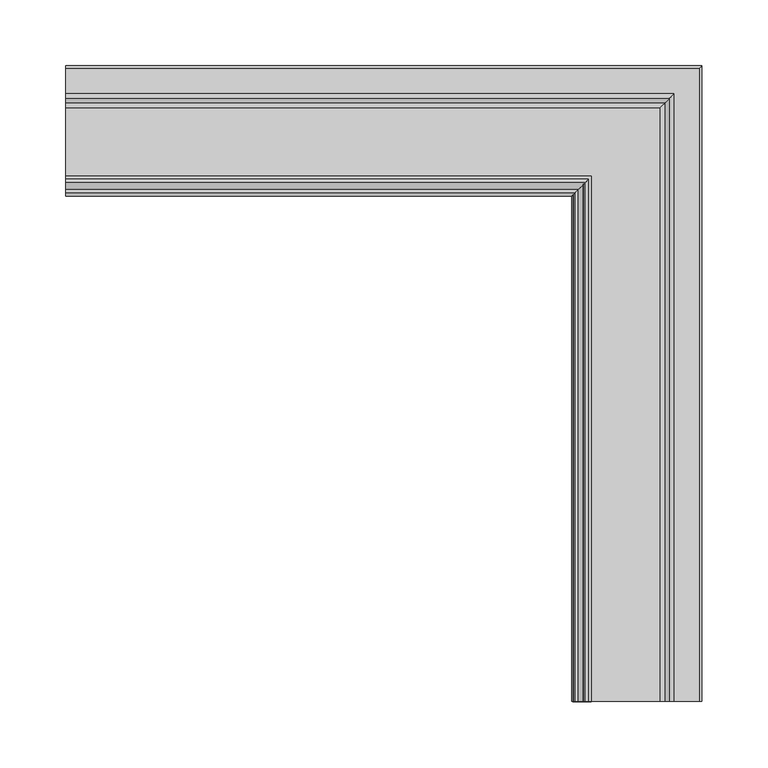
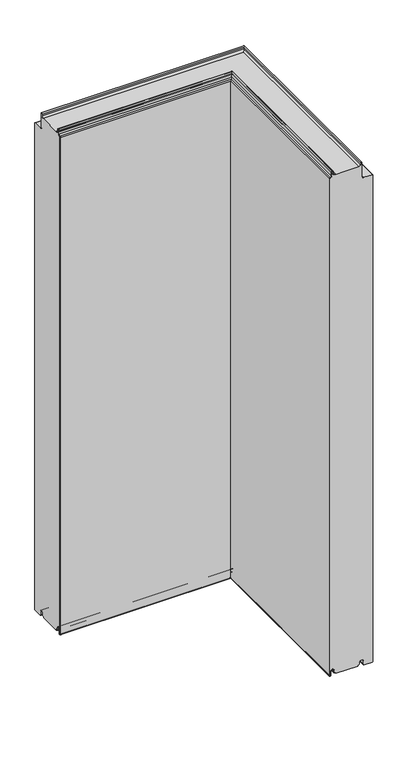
"""IFC4 building model written with IfcOpenShell, lengths in millimetres: plate geometry, Угловой модуль Fronttop : Угловой модуль Fronttop 100/1190."""

from ifc_helpers import new_model, si_unit, frame, origin, place, context, project, spatial, polyline, circle_curve, ellipse_curve, source, transform, mapped, element, save
from ifc_brep_helpers import plane_surface, cylinder_surface, revolved_surface, advanced_brep


def plate_c6ed5419(model_context):
    return source(origin(), model_context, "Body", "AdvancedBrep", [
        advanced_brep(
        [(-234.5, 15.0, 3.0), (-234.5, 13.0, 3.0), (-234.5, 12.0, 4.0), (-234.5, 12.0, 8.0), (-234.5, 3.0, 8.0), (-234.5, 3.0, -0.5), (-234.5, 1.0, -0.5), (-234.5, 1.0, 1185.0278643), (-234.5, 2.1111111, 1186.0216723), (-234.5, 6.0, 1189.5), (-234.5, 6.0, 1198.0), (-234.5, 9.0, 1198.0), (-234.5, 9.0, 1194.0), (-234.5, 13.0, 1190.0), (-234.5, 67.0, 1190.0), (-234.5, 71.0, 1194.0), (-234.5, 71.0, 1198.0), (-234.5, 74.0, 1198.0), (-234.5, 74.0, 1165.0), (-234.5, 78.0, 1161.0), (-234.5, 97.0, 1161.0), (-234.5, 99.0, 1159.0), (-234.5, 99.0, 0.0), (-234.5, 97.0, -2.0), (-234.5, 79.0, -2.0), (-234.5, 77.0, 0.0), (-234.5, 77.0, 8.0), (-234.5, 68.0, 8.0), (-234.5, 68.0, 4.0), (-234.5, 67.0, 3.0), (-234.5, 65.0, 3.0), (-234.5, 65.0, 0.0), (-234.5, 15.0, 0.0), (165.0, 15.0, 0.0), (165.0, 15.0, 3.0), (215.0, 65.0, 0.0), (215.0, -384.5, 0.0), (165.0, -384.5, 0.0), (215.0, 65.0, 3.0), (217.0, 67.0, 3.0), (217.0, -384.5, 3.0), (215.0, -384.5, 3.0), (218.0, 68.0, 4.0), (218.0, 68.0, 8.0), (227.0, 77.0, 8.0), (227.0, 77.0, 0.0), (229.0, 79.0, -2.0), (247.0, 97.0, -2.0), (247.0, -384.5, -2.0), (229.0, -384.5, -2.0), (249.0, 99.0, 0.0), (249.0, 99.0, 1159.0), (247.0, 97.0, 1161.0), (228.0, 78.0, 1161.0), (228.0, -384.5, 1161.0), (247.0, -384.5, 1161.0), (224.0, 74.0, 1165.0), (224.0, 74.0, 1198.0), (221.0, 71.0, 1198.0), (221.0, 71.0, 1194.0), (217.0, 67.0, 1190.0), (163.0, 13.0, 1190.0), (163.0, -384.5, 1190.0), (217.0, -384.5, 1190.0), (159.0, 9.0, 1194.0), (159.0, 9.0, 1198.0), (156.0, 6.0, 1198.0), (156.0, 6.0, 1189.5), (152.1111111, 2.1111111, 1186.021672), (151.0, 1.0, 1185.0278643), (151.0, 1.0, -0.5), (153.0, 3.0, -0.5), (153.0, 3.0, 8.0), (162.0, 12.0, 8.0), (162.0, 12.0, 4.0), (163.0, 13.0, 3.0), (165.0, -384.5, 3.0), (163.0, -384.5, 3.0), (218.0, -384.5, 4.0), (218.0, -384.5, 8.0), (227.0, -384.5, 8.0), (227.0, -384.5, 0.0), (249.0, -384.5, 0.0), (249.0, -384.5, 1159.0), (224.0, -384.5, 1165.0), (224.0, -384.5, 1198.0), (221.0, -384.5, 1198.0), (221.0, -384.5, 1194.0), (159.0, -384.5, 1194.0), (159.0, -384.5, 1198.0), (156.0, -384.5, 1198.0), (156.0, -384.5, 1189.5), (152.1111111, -384.5, 1186.021672), (151.0, -384.5, 1185.0278643), (151.0, -384.5, -0.5), (153.0, -384.5, -0.5), (153.0, -384.5, 8.0), (162.0, -384.5, 8.0), (162.0, -384.5, 4.0)],
        [
            (0, 1),
            (1, 2, circle_curve(frame((-234.5, 13.0, 4.0), z_axis=(-1.0, 0.0, 0.0), x_axis=(0.0, -1.0, 0.0)), 1.0)),
            (2, 3),
            (3, 4, circle_curve(frame((-234.5, 7.5, 8.0), z_axis=(1.0, 0.0, 0.0), x_axis=(0.0, -1.0, 0.0)), 4.5)),
            (4, 5),
            (5, 6, circle_curve(frame((-234.5, 2.0, -0.5), z_axis=(-1.0, 0.0, 0.0), x_axis=(0.0, -1.0, 0.0)), 1.0)),
            (6, 7),
            (7, 8, circle_curve(frame((-234.5, 2.0, 1185.0278643), z_axis=(-1.0, 0.0, 0.0), x_axis=(0.0, -1.0, 0.0)), 1.0)),
            (8, 9, circle_curve(frame((-234.5, 2.5, 1189.5), z_axis=(1.0, 0.0, 0.0), x_axis=(0.0, -1.0, 0.0)), 3.5)),
            (9, 10),
            (10, 11, circle_curve(frame((-234.5, 7.5, 1198.0), z_axis=(-1.0, 0.0, 0.0), x_axis=(0.0, -1.0, 0.0)), 1.5)),
            (11, 12),
            (12, 13, circle_curve(frame((-234.5, 13.0, 1194.0), z_axis=(1.0, 0.0, 0.0), x_axis=(0.0, -1.0, 0.0)), 4.0)),
            (13, 14),
            (14, 15, circle_curve(frame((-234.5, 67.0, 1194.0), z_axis=(1.0, 0.0, 0.0), x_axis=(0.0, -1.0, 0.0)), 4.0)),
            (15, 16),
            (16, 17, circle_curve(frame((-234.5, 72.5, 1198.0), z_axis=(-1.0, 0.0, 0.0), x_axis=(0.0, -1.0, 0.0)), 1.5)),
            (17, 18),
            (18, 19, circle_curve(frame((-234.5, 78.0, 1165.0), z_axis=(1.0, 0.0, 0.0), x_axis=(0.0, -1.0, 0.0)), 4.0)),
            (19, 20),
            (20, 21, circle_curve(frame((-234.5, 97.0, 1159.0), z_axis=(-1.0, 0.0, 0.0), x_axis=(0.0, -1.0, 0.0)), 2.0)),
            (21, 22),
            (22, 23, circle_curve(frame((-234.5, 97.0, 0.0), z_axis=(-1.0, 0.0, 0.0), x_axis=(0.0, -1.0, 0.0)), 2.0)),
            (23, 24),
            (24, 25, circle_curve(frame((-234.5, 79.0, 0.0), z_axis=(-1.0, 0.0, 0.0), x_axis=(0.0, -1.0, 0.0)), 2.0)),
            (25, 26),
            (26, 27, circle_curve(frame((-234.5, 72.5, 8.0), z_axis=(1.0, 0.0, 0.0), x_axis=(0.0, -1.0, 0.0)), 4.5)),
            (27, 28),
            (28, 29, circle_curve(frame((-234.5, 67.0, 4.0), z_axis=(-1.0, 0.0, 0.0), x_axis=(0.0, -1.0, 0.0)), 1.0)),
            (29, 30),
            (30, 31),
            (31, 32),
            (32, 0),
            (32, 33),
            (33, 34),
            (34, 0),
            (31, 35),
            (35, 36),
            (36, 37),
            (37, 33),
            (30, 38),
            (38, 35),
            (29, 39),
            (39, 40),
            (40, 41),
            (41, 38),
            (28, 42),
            (42, 39, ellipse_curve(frame((217.0, 67.0, 4.0), z_axis=(-0.7071067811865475, 0.7071067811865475, 0.0), x_axis=(-0.7071067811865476, -0.7071067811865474, 0.0)), 1.4142136, 1.0)),
            (27, 43),
            (43, 42),
            (26, 44),
            (44, 43, ellipse_curve(frame((222.5, 72.5, 8.0), z_axis=(0.7071067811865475, -0.7071067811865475, 0.0), x_axis=(0.7071067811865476, 0.7071067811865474, 0.0)), 6.363961, 4.5)),
            (25, 45),
            (45, 44),
            (24, 46),
            (46, 45, ellipse_curve(frame((229.0, 79.0, 0.0), z_axis=(-0.7071067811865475, 0.7071067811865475, 0.0), x_axis=(-0.7071067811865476, -0.7071067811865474, 0.0)), 2.8284271, 2.0)),
            (23, 47),
            (47, 48),
            (48, 49),
            (49, 46),
            (22, 50),
            (50, 47, ellipse_curve(frame((247.0, 97.0, 0.0), z_axis=(-0.7071067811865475, 0.7071067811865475, 0.0), x_axis=(-0.7071067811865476, -0.7071067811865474, 0.0)), 2.8284271, 2.0)),
            (21, 51),
            (51, 50),
            (20, 52),
            (52, 51, ellipse_curve(frame((247.0, 97.0, 1159.0), z_axis=(-0.7071067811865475, 0.7071067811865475, 0.0), x_axis=(-0.7071067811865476, -0.7071067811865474, 0.0)), 2.8284271, 2.0)),
            (19, 53),
            (53, 54),
            (54, 55),
            (55, 52),
            (18, 56),
            (56, 53, ellipse_curve(frame((228.0, 78.0, 1165.0), z_axis=(0.7071067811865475, -0.7071067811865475, 0.0), x_axis=(0.7071067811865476, 0.7071067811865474, 0.0)), 5.6568542, 4.0)),
            (17, 57),
            (57, 56),
            (16, 58),
            (58, 57, ellipse_curve(frame((222.5, 72.5, 1198.0), z_axis=(-0.7071067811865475, 0.7071067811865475, 0.0), x_axis=(-0.7071067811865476, -0.7071067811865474, 0.0)), 2.1213203, 1.5)),
            (15, 59),
            (59, 58),
            (14, 60),
            (60, 59, ellipse_curve(frame((217.0, 67.0, 1194.0), z_axis=(0.7071067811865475, -0.7071067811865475, 0.0), x_axis=(0.7071067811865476, 0.7071067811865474, 0.0)), 5.6568542, 4.0)),
            (13, 61),
            (61, 62),
            (62, 63),
            (63, 60),
            (12, 64),
            (64, 61, ellipse_curve(frame((163.0, 13.0, 1194.0), z_axis=(0.7071067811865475, -0.7071067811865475, 0.0), x_axis=(0.7071067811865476, 0.7071067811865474, 0.0)), 5.6568542, 4.0)),
            (11, 65),
            (65, 64),
            (10, 66),
            (66, 65, ellipse_curve(frame((157.5, 7.5, 1198.0), z_axis=(-0.7071067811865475, 0.7071067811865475, 0.0), x_axis=(-0.7071067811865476, -0.7071067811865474, 0.0)), 2.1213204, 1.5)),
            (9, 67),
            (67, 66),
            (8, 68),
            (68, 67, ellipse_curve(frame((152.5, 2.5, 1189.5), z_axis=(0.7071067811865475, -0.7071067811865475, 0.0), x_axis=(0.7071067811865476, 0.7071067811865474, 0.0)), 4.9497475, 3.5)),
            (7, 69),
            (69, 68, ellipse_curve(frame((152.0, 2.0, 1185.0278643), z_axis=(-0.7071067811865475, 0.7071067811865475, 0.0), x_axis=(-0.7071067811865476, -0.7071067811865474, 0.0)), 1.4142136, 1.0)),
            (6, 70),
            (70, 69),
            (5, 71),
            (71, 70, ellipse_curve(frame((152.0, 2.0, -0.5), z_axis=(-0.7071067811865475, 0.7071067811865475, 0.0), x_axis=(-0.7071067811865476, -0.7071067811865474, 0.0)), 1.4142136, 1.0)),
            (4, 72),
            (72, 71),
            (3, 73),
            (73, 72, ellipse_curve(frame((157.5, 7.5, 8.0), z_axis=(0.7071067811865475, -0.7071067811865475, 0.0), x_axis=(0.7071067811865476, 0.7071067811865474, 0.0)), 6.363961, 4.5)),
            (2, 74),
            (74, 73),
            (1, 75),
            (75, 74, ellipse_curve(frame((163.0, 13.0, 4.0), z_axis=(-0.7071067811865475, 0.7071067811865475, 0.0), x_axis=(-0.7071067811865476, -0.7071067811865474, 0.0)), 1.4142136, 1.0)),
            (34, 76),
            (76, 77),
            (77, 75),
            (76, 37),
            (36, 41),
            (40, 78, circle_curve(frame((217.0, -384.5, 4.0), z_axis=(0.0, -1.0, 0.0), x_axis=(-1.0, 0.0, 0.0)), 1.0)),
            (78, 79),
            (79, 80, circle_curve(frame((222.5, -384.5, 8.0), z_axis=(0.0, 1.0, 0.0), x_axis=(-1.0, 0.0, 0.0)), 4.5)),
            (80, 81),
            (81, 49, circle_curve(frame((229.0, -384.5, 0.0), z_axis=(0.0, -1.0, 0.0), x_axis=(-1.0, 0.0, 0.0)), 2.0)),
            (48, 82, circle_curve(frame((247.0, -384.5, 0.0), z_axis=(0.0, -1.0, 0.0), x_axis=(-1.0, 0.0, 0.0)), 2.0)),
            (82, 83),
            (83, 55, circle_curve(frame((247.0, -384.5, 1159.0), z_axis=(0.0, -1.0, 0.0), x_axis=(-1.0, 0.0, 0.0)), 2.0)),
            (54, 84, circle_curve(frame((228.0, -384.5, 1165.0), z_axis=(0.0, 1.0, 0.0), x_axis=(-1.0, 0.0, 0.0)), 4.0)),
            (84, 85),
            (85, 86, circle_curve(frame((222.5, -384.5, 1198.0), z_axis=(0.0, -1.0, 0.0), x_axis=(-1.0, 0.0, 0.0)), 1.5)),
            (86, 87),
            (87, 63, circle_curve(frame((217.0, -384.5, 1194.0), z_axis=(0.0, 1.0, 0.0), x_axis=(-1.0, 0.0, 0.0)), 4.0)),
            (62, 88, circle_curve(frame((163.0, -384.5, 1194.0), z_axis=(0.0, 1.0, 0.0), x_axis=(-1.0, 0.0, 0.0)), 4.0)),
            (88, 89),
            (89, 90, circle_curve(frame((157.5, -384.5, 1198.0), z_axis=(0.0, -1.0, 0.0), x_axis=(-1.0, 0.0, 0.0)), 1.5)),
            (90, 91),
            (91, 92, circle_curve(frame((152.5, -384.5, 1189.5), z_axis=(0.0, 1.0, 0.0), x_axis=(-1.0, 0.0, 0.0)), 3.5)),
            (92, 93, circle_curve(frame((152.0, -384.5, 1185.0278643), z_axis=(0.0, -1.0, 0.0), x_axis=(-1.0, 0.0, 0.0)), 1.0)),
            (93, 94),
            (94, 95, circle_curve(frame((152.0, -384.5, -0.5), z_axis=(0.0, -1.0, 0.0), x_axis=(-1.0, 0.0, 0.0)), 1.0)),
            (95, 96),
            (96, 97, circle_curve(frame((157.5, -384.5, 8.0), z_axis=(0.0, 1.0, 0.0), x_axis=(-1.0, 0.0, 0.0)), 4.5)),
            (97, 98),
            (98, 77, circle_curve(frame((163.0, -384.5, 4.0), z_axis=(0.0, -1.0, 0.0), x_axis=(-1.0, 0.0, 0.0)), 1.0)),
            (42, 78),
            (43, 79),
            (44, 80),
            (45, 81),
            (50, 82),
            (51, 83),
            (56, 84),
            (57, 85),
            (58, 86),
            (59, 87),
            (64, 88),
            (65, 89),
            (66, 90),
            (67, 91),
            (68, 92),
            (69, 93),
            (70, 94),
            (71, 95),
            (72, 96),
            (73, 97),
            (74, 98),
        ],
        [
            plane_surface(frame((-234.5, 0.0, 0.0), z_axis=(-1.0, 0.0, 0.0), x_axis=(0.0, 0.0, 1.0))),
            plane_surface(frame((-234.5, 15.0, 0.0), z_axis=(0.0, -1.0, 0.0), x_axis=(1.0, 0.0, 0.0))),
            plane_surface(frame((-234.5, 65.0, 0.0), z_axis=(0.0, 0.0, -1.0), x_axis=(1.0, 0.0, 0.0))),
            plane_surface(frame((-234.5, 65.0, 3.0), z_axis=(0.0, 1.0, 0.0), x_axis=(1.0, 0.0, 0.0))),
            plane_surface(frame((-234.5, 67.0, 3.0), z_axis=(0.0, 0.0, -1.0), x_axis=(1.0, 0.0, 0.0))),
            cylinder_surface(frame((-234.5, 67.0, 4.0), z_axis=(-1.0, 0.0, 0.0), x_axis=(0.0, -1.0, 0.0)), 1.0),
            plane_surface(frame((-234.5, 68.0, 8.0), z_axis=(0.0, 1.0, 0.0), x_axis=(1.0, 0.0, 0.0))),
            revolved_surface(polyline([(227.0, 68.0, 8.0), (-234.5, 68.0, 8.0)]), (-234.5, 72.5, 8.0), (1.0, 0.0, 0.0)),
            plane_surface(frame((-234.5, 77.0, 0.0), z_axis=(0.0, -1.0, 0.0), x_axis=(1.0, 0.0, 0.0))),
            cylinder_surface(frame((-234.5, 79.0, 0.0), z_axis=(-1.0, 0.0, 0.0), x_axis=(0.0, -1.0, 0.0)), 2.0),
            plane_surface(frame((-234.5, 97.0, -2.0), z_axis=(0.0, 0.0, -1.0), x_axis=(1.0, 0.0, 0.0))),
            cylinder_surface(frame((-234.5, 97.0, 0.0), z_axis=(-1.0, 0.0, 0.0), x_axis=(0.0, -1.0, 0.0)), 2.0),
            plane_surface(frame((-234.5, 99.0, 1159.0), z_axis=(0.0, 1.0, 0.0), x_axis=(1.0, 0.0, 0.0))),
            cylinder_surface(frame((-234.5, 97.0, 1159.0), z_axis=(-1.0, 0.0, 0.0), x_axis=(0.0, -1.0, 0.0)), 2.0),
            plane_surface(frame((-234.5, 78.0, 1161.0), z_axis=(0.0, 0.0, 1.0), x_axis=(1.0, 0.0, 0.0))),
            revolved_surface(polyline([(231.9999999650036, 74.0, 1165.0), (-234.5, 74.0, 1165.0)]), (-234.5, 78.0, 1165.0), (1.0, 0.0, 0.0)),
            plane_surface(frame((-234.5, 74.0, 1198.0), z_axis=(0.0, 1.0, 0.0), x_axis=(1.0, 0.0, 0.0))),
            cylinder_surface(frame((-234.5, 72.5, 1198.0), z_axis=(-1.0, 0.0, 0.0), x_axis=(0.0, -1.0, 0.0)), 1.5),
            plane_surface(frame((-234.5, 71.0, 1194.0), z_axis=(0.0, -1.0, 0.0), x_axis=(1.0, 0.0, 0.0))),
            revolved_surface(polyline([(221.0, 63.0, 1194.0), (-234.5, 63.0, 1194.0)]), (-234.5, 67.0, 1194.0), (1.0, 0.0, 0.0)),
            plane_surface(frame((-234.5, 13.0, 1190.0), z_axis=(0.0, 0.0, 1.0), x_axis=(1.0, 0.0, 0.0))),
            revolved_surface(polyline([(166.9999999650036, 9.0, 1194.0), (-234.5, 9.0, 1194.0)]), (-234.5, 13.0, 1194.0), (1.0, 0.0, 0.0)),
            plane_surface(frame((-234.5, 9.0, 1198.0), z_axis=(0.0, 1.0, 0.0), x_axis=(1.0, 0.0, 0.0))),
            cylinder_surface(frame((-234.5, 7.5, 1198.0), z_axis=(-1.0, 0.0, 0.0), x_axis=(0.0, -1.0, 0.0)), 1.5),
            plane_surface(frame((-234.5, 6.0, 1189.5), z_axis=(0.0, -1.0, 0.0), x_axis=(1.0, 0.0, 0.0))),
            revolved_surface(polyline([(156.00000002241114, -1.0, 1189.5), (-234.5, -1.0, 1189.5)]), (-234.5, 2.5, 1189.5), (1.0, 0.0, 0.0)),
            cylinder_surface(frame((-234.5, 2.0, 1185.0278643), z_axis=(-1.0, 0.0, 0.0), x_axis=(0.0, -1.0, 0.0)), 1.0),
            plane_surface(frame((-234.5, 1.0, -0.5), z_axis=(0.0, -1.0, 0.0), x_axis=(1.0, 0.0, 0.0))),
            cylinder_surface(frame((-234.5, 2.0, -0.5), z_axis=(-1.0, 0.0, 0.0), x_axis=(0.0, -1.0, 0.0)), 1.0),
            plane_surface(frame((-234.5, 3.0, 8.0), z_axis=(0.0, 1.0, 0.0), x_axis=(1.0, 0.0, 0.0))),
            revolved_surface(polyline([(162.0, 3.0, 8.0), (-234.5, 3.0, 8.0)]), (-234.5, 7.5, 8.0), (1.0, 0.0, 0.0)),
            plane_surface(frame((-234.5, 12.0, 4.0), z_axis=(0.0, -1.0, 0.0), x_axis=(1.0, 0.0, 0.0))),
            cylinder_surface(frame((-234.5, 13.0, 4.0), z_axis=(-1.0, 0.0, 0.0), x_axis=(0.0, -1.0, 0.0)), 1.0),
            plane_surface(frame((-234.5, 15.0, 3.0), z_axis=(0.0, 0.0, -1.0), x_axis=(1.0, 0.0, 0.0))),
            plane_surface(frame((150.0, -384.5, 0.0), z_axis=(0.0, -1.0, 0.0), x_axis=(0.0, 0.0, 1.0))),
            plane_surface(frame((165.0, 15.0, 0.0), z_axis=(-1.0, 0.0, 0.0), x_axis=(0.0, -1.0, 0.0))),
            plane_surface(frame((215.0, 65.0, 3.0), z_axis=(1.0, 0.0, 0.0), x_axis=(0.0, -1.0, 0.0))),
            cylinder_surface(frame((217.0, 0.0, 4.0), z_axis=(0.0, 1.0, 0.0), x_axis=(-1.0, 0.0, 0.0)), 1.0),
            plane_surface(frame((218.0, 68.0, 8.0), z_axis=(1.0, 0.0, 0.0), x_axis=(0.0, -1.0, 0.0))),
            revolved_surface(polyline([(218.0, -384.5, 8.0), (218.0, 77.0, 8.0)]), (222.5, 0.0, 8.0), (0.0, -1.0, 0.0)),
            plane_surface(frame((227.0, 77.0, 0.0), z_axis=(-1.0, 0.0, 0.0), x_axis=(0.0, -1.0, 0.0))),
            cylinder_surface(frame((229.0, 0.0, 0.0), z_axis=(0.0, 1.0, 0.0), x_axis=(-1.0, 0.0, 0.0)), 2.0),
            cylinder_surface(frame((247.0, 0.0, 0.0), z_axis=(0.0, 1.0, 0.0), x_axis=(-1.0, 0.0, 0.0)), 2.0),
            plane_surface(frame((249.0, 99.0, 1159.0), z_axis=(1.0, 0.0, 0.0), x_axis=(0.0, -1.0, 0.0))),
            cylinder_surface(frame((247.0, 0.0, 1159.0), z_axis=(0.0, 1.0, 0.0), x_axis=(-1.0, 0.0, 0.0)), 2.0),
            revolved_surface(polyline([(224.0, -384.5, 1165.0), (224.0, 81.9999999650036, 1165.0)]), (228.0, 0.0, 1165.0), (0.0, -1.0, 0.0)),
            plane_surface(frame((224.0, 74.0, 1198.0), z_axis=(1.0, 0.0, 0.0), x_axis=(0.0, -1.0, 0.0))),
            cylinder_surface(frame((222.5, 0.0, 1198.0), z_axis=(0.0, 1.0, 0.0), x_axis=(-1.0, 0.0, 0.0)), 1.5),
            plane_surface(frame((221.0, 71.0, 1194.0), z_axis=(-1.0, 0.0, 0.0), x_axis=(0.0, -1.0, 0.0))),
            revolved_surface(polyline([(213.0, -384.5, 1194.0), (213.0, 71.0, 1194.0)]), (217.0, 0.0, 1194.0), (0.0, -1.0, 0.0)),
            revolved_surface(polyline([(159.0, -384.5, 1194.0), (159.0, 16.999999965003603, 1194.0)]), (163.0, 0.0, 1194.0), (0.0, -1.0, 0.0)),
            plane_surface(frame((159.0, 9.0, 1198.0), z_axis=(1.0, 0.0, 0.0), x_axis=(0.0, -1.0, 0.0))),
            cylinder_surface(frame((157.5, 0.0, 1198.0), z_axis=(0.0, 1.0, 0.0), x_axis=(-1.0, 0.0, 0.0)), 1.5),
            plane_surface(frame((156.0, 6.0, 1189.5), z_axis=(-1.0, 0.0, 0.0), x_axis=(0.0, -1.0, 0.0))),
            revolved_surface(polyline([(149.0, -384.5, 1189.5), (149.0, 6.000000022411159, 1189.5)]), (152.5, 0.0, 1189.5), (0.0, -1.0, 0.0)),
            cylinder_surface(frame((152.0, 0.0, 1185.0278643), z_axis=(0.0, 1.0, 0.0), x_axis=(-1.0, 0.0, 0.0)), 1.0),
            plane_surface(frame((151.0, 1.0, -0.5), z_axis=(-1.0, 0.0, 0.0), x_axis=(0.0, -1.0, 0.0))),
            cylinder_surface(frame((152.0, 0.0, -0.5), z_axis=(0.0, 1.0, 0.0), x_axis=(-1.0, 0.0, 0.0)), 1.0),
            plane_surface(frame((153.0, 3.0, 8.0), z_axis=(1.0, 0.0, 0.0), x_axis=(0.0, -1.0, 0.0))),
            revolved_surface(polyline([(153.0, -384.5, 8.0), (153.0, 12.0, 8.0)]), (157.5, 0.0, 8.0), (0.0, -1.0, 0.0)),
            plane_surface(frame((162.0, 12.0, 4.0), z_axis=(-1.0, 0.0, 0.0), x_axis=(0.0, -1.0, 0.0))),
            cylinder_surface(frame((163.0, 0.0, 4.0), z_axis=(0.0, 1.0, 0.0), x_axis=(-1.0, 0.0, 0.0)), 1.0),
        ],
        [
            (0, [[1, 2, 3, 4, 5, 6, 7, 8, 9, 10, 11, 12, 13, 14, 15, 16, 17, 18, 19, 20, 21, 22, 23, 24, 25, 26, 27, 28, 29, 30, 31, 32, 33]]),
            (1, [[-33, 34, 35, 36]]),
            (2, [[-32, 37, 38, 39, 40, -34]]),
            (3, [[-31, 41, 42, -37]]),
            (4, [[-30, 43, 44, 45, 46, -41]]),
            (5, [[-29, 47, 48, -43]]),
            (6, [[-28, 49, 50, -47]]),
            (7, [[-27, 51, 52, -49]]),
            (8, [[-26, 53, 54, -51]]),
            (9, [[-25, 55, 56, -53]]),
            (10, [[-24, 57, 58, 59, 60, -55]]),
            (11, [[-23, 61, 62, -57]]),
            (12, [[-22, 63, 64, -61]]),
            (13, [[-21, 65, 66, -63]]),
            (14, [[-20, 67, 68, 69, 70, -65]]),
            (15, [[-19, 71, 72, -67]]),
            (16, [[-18, 73, 74, -71]]),
            (17, [[-17, 75, 76, -73]]),
            (18, [[-16, 77, 78, -75]]),
            (19, [[-15, 79, 80, -77]]),
            (20, [[-14, 81, 82, 83, 84, -79]]),
            (21, [[-13, 85, 86, -81]]),
            (22, [[-12, 87, 88, -85]]),
            (23, [[-11, 89, 90, -87]]),
            (24, [[-10, 91, 92, -89]]),
            (25, [[-9, 93, 94, -91]]),
            (26, [[-8, 95, 96, -93]]),
            (27, [[-7, 97, 98, -95]]),
            (28, [[-6, 99, 100, -97]]),
            (29, [[-5, 101, 102, -99]]),
            (30, [[-4, 103, 104, -101]]),
            (31, [[-3, 105, 106, -103]]),
            (32, [[-2, 107, 108, -105]]),
            (33, [[-1, -36, 109, 110, 111, -107]]),
            (34, [[112, -39, 113, -45, 114, 115, 116, 117, 118, -59, 119, 120, 121, -69, 122, 123, 124, 125, 126, -83, 127, 128, 129, 130, 131, 132, 133, 134, 135, 136, 137, 138, -110]]),
            (35, [[-35, -40, -112, -109]]),
            (36, [[-42, -46, -113, -38]]),
            (37, [[-48, 139, -114, -44]]),
            (38, [[-50, 140, -115, -139]]),
            (39, [[-52, 141, -116, -140]]),
            (40, [[-54, 142, -117, -141]]),
            (41, [[-56, -60, -118, -142]]),
            (42, [[-62, 143, -119, -58]]),
            (43, [[-64, 144, -120, -143]]),
            (44, [[-66, -70, -121, -144]]),
            (45, [[-72, 145, -122, -68]]),
            (46, [[-74, 146, -123, -145]]),
            (47, [[-76, 147, -124, -146]]),
            (48, [[-78, 148, -125, -147]]),
            (49, [[-80, -84, -126, -148]]),
            (50, [[-86, 149, -127, -82]]),
            (51, [[-88, 150, -128, -149]]),
            (52, [[-90, 151, -129, -150]]),
            (53, [[-92, 152, -130, -151]]),
            (54, [[-94, 153, -131, -152]]),
            (55, [[-96, 154, -132, -153]]),
            (56, [[-98, 155, -133, -154]]),
            (57, [[-100, 156, -134, -155]]),
            (58, [[-102, 157, -135, -156]]),
            (59, [[-104, 158, -136, -157]]),
            (60, [[-106, 159, -137, -158]]),
            (61, [[-108, -111, -138, -159]]),
        ],
    ),
        advanced_brep(
        [(-234.5, 13.0, 1191.0), (-234.5, 15.0, 1191.0), (-234.5, 15.0, 1190.0), (-234.5, 13.0, 1190.0), (-234.5, 9.0, 1194.0), (-234.5, 9.0, 1198.0), (-234.5, 6.0, 1198.0), (-234.5, 6.0, 1189.5), (-234.5, 2.1134897, 1186.0214069), (-234.5, 1.0, 1185.0), (-234.5, 1.0, -0.5), (-234.5, 3.0, -0.5), (-234.5, 3.0, 8.0), (-234.5, 12.0, 8.0), (-234.5, 12.0, 4.0), (-234.5, 13.0, 3.0), (-234.5, 15.0, 3.0), (-234.5, 15.0, 2.0), (-234.5, 13.0, 2.0), (-234.5, 11.0, 4.0), (-234.5, 11.0, 8.0), (-234.5, 4.0, 8.0), (-234.5, 4.0, -0.5), (-234.5, 0.0, -0.5), (-234.5, 0.0, 1185.0), (-234.5, 2.220863, 1186.9877675), (-234.5, 5.0, 1189.5), (-234.5, 5.0, 1198.0), (-234.5, 10.0, 1198.0), (-234.5, 10.0, 1194.0), (163.0, 13.0, 1191.0), (163.0, -384.5, 1191.0), (165.0, -384.5, 1191.0), (165.0, 15.0, 1191.0), (165.0, 15.0, 1190.0), (165.0, -384.5, 1190.0), (163.0, -384.5, 1190.0), (163.0, 13.0, 1190.0), (159.0, 9.0, 1194.0), (159.0, 9.0, 1198.0), (156.0, 6.0, 1198.0), (156.0, 6.0, 1189.5), (152.1134897, 2.1134897, 1186.0214069), (151.0, 1.0, 1185.0), (151.0, 1.0, -0.5), (153.0, 3.0, -0.5), (153.0, 3.0, 8.0), (162.0, 12.0, 8.0), (162.0, 12.0, 4.0), (163.0, 13.0, 3.0), (163.0, -384.5, 3.0), (165.0, -384.5, 3.0), (165.0, 15.0, 3.0), (165.0, 15.0, 2.0), (165.0, -384.5, 2.0), (163.0, -384.5, 2.0), (163.0, 13.0, 2.0), (161.0, 11.0, 4.0), (161.0, 11.0, 8.0), (154.0, 4.0, 8.0), (154.0, 4.0, -0.5), (150.0, 0.0, -0.5), (150.0, 0.0, 1185.0), (152.220863, 2.220863, 1186.9877675), (155.0, 5.0, 1189.5), (155.0, 5.0, 1198.0), (160.0, 10.0, 1198.0), (160.0, 10.0, 1194.0), (160.0, -384.5, 1194.0), (160.0, -384.5, 1198.0), (155.0, -384.5, 1198.0), (155.0, -384.5, 1189.5), (152.2239212, -384.5, 1187.0152907), (150.0, -384.5, 1185.0), (150.0, -384.5, -0.5), (154.0, -384.5, -0.5), (154.0, -384.5, 8.0), (161.0, -384.5, 8.0), (161.0, -384.5, 4.0), (162.0, -384.5, 4.0), (162.0, -384.5, 8.0), (153.0, -384.5, 8.0), (153.0, -384.5, -0.5), (151.0, -384.5, -0.5), (151.0, -384.5, 1185.0), (152.1104315, -384.5, 1185.9938837), (156.0, -384.5, 1189.5), (156.0, -384.5, 1198.0), (159.0, -384.5, 1198.0), (159.0, -384.5, 1194.0)],
        [
            (0, 1),
            (1, 2),
            (2, 3),
            (3, 4, circle_curve(frame((-234.5, 13.0, 1194.0), z_axis=(-1.0, 0.0, 0.0), x_axis=(0.0, -1.0, 0.0)), 4.0)),
            (4, 5),
            (5, 6, circle_curve(frame((-234.5, 7.5, 1198.0), z_axis=(1.0, 0.0, 0.0), x_axis=(0.0, -1.0, 0.0)), 1.5)),
            (6, 7),
            (7, 8, circle_curve(frame((-234.5, 2.5, 1189.5), z_axis=(-1.0, 0.0, 0.0), x_axis=(0.0, -1.0, 0.0)), 3.5)),
            (8, 9, circle_curve(frame((-234.5, 2.0, 1185.0), z_axis=(1.0, 0.0, 0.0), x_axis=(0.0, -1.0, 0.0)), 1.0)),
            (9, 10),
            (10, 11, circle_curve(frame((-234.5, 2.0, -0.5), z_axis=(1.0, 0.0, 0.0), x_axis=(0.0, -1.0, 0.0)), 1.0)),
            (11, 12),
            (12, 13, circle_curve(frame((-234.5, 7.5, 8.0), z_axis=(-1.0, 0.0, 0.0), x_axis=(0.0, -1.0, 0.0)), 4.5)),
            (13, 14),
            (14, 15, circle_curve(frame((-234.5, 13.0, 4.0), z_axis=(1.0, 0.0, 0.0), x_axis=(0.0, -1.0, 0.0)), 1.0)),
            (15, 16),
            (16, 17),
            (17, 18),
            (18, 19, circle_curve(frame((-234.5, 13.0, 4.0), z_axis=(-1.0, 0.0, 0.0), x_axis=(0.0, -1.0, 0.0)), 2.0)),
            (19, 20),
            (20, 21, circle_curve(frame((-234.5, 7.5, 8.0), z_axis=(1.0, 0.0, 0.0), x_axis=(0.0, -1.0, 0.0)), 3.5)),
            (21, 22),
            (22, 23, circle_curve(frame((-234.5, 2.0, -0.5), z_axis=(-1.0, 0.0, 0.0), x_axis=(0.0, -1.0, 0.0)), 2.0)),
            (23, 24),
            (24, 25, circle_curve(frame((-234.5, 2.0, 1185.0), z_axis=(-1.0, 0.0, 0.0), x_axis=(0.0, -1.0, 0.0)), 2.0)),
            (25, 26, circle_curve(frame((-234.5, 2.5, 1189.5), z_axis=(1.0, 0.0, 0.0), x_axis=(0.0, -1.0, 0.0)), 2.5)),
            (26, 27),
            (27, 28, circle_curve(frame((-234.5, 7.5, 1198.0), z_axis=(-1.0, 0.0, 0.0), x_axis=(0.0, -1.0, 0.0)), 2.5)),
            (28, 29),
            (29, 0, circle_curve(frame((-234.5, 13.0, 1194.0), z_axis=(1.0, 0.0, 0.0), x_axis=(0.0, -1.0, 0.0)), 3.0)),
            (0, 30),
            (30, 31),
            (31, 32),
            (32, 33),
            (33, 1),
            (33, 34),
            (34, 2),
            (34, 35),
            (35, 36),
            (36, 37),
            (37, 3),
            (37, 38, ellipse_curve(frame((163.0, 13.0, 1194.0), z_axis=(-0.7071067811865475, 0.7071067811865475, 0.0), x_axis=(-0.7071067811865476, -0.7071067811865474, 0.0)), 5.6568542, 4.0)),
            (38, 4),
            (38, 39),
            (39, 5),
            (39, 40, ellipse_curve(frame((157.5, 7.5, 1198.0), z_axis=(0.7071067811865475, -0.7071067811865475, 0.0), x_axis=(0.7071067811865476, 0.7071067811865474, 0.0)), 2.1213204, 1.5)),
            (40, 6),
            (40, 41),
            (41, 7),
            (41, 42, ellipse_curve(frame((152.5, 2.5, 1189.5), z_axis=(-0.7071067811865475, 0.7071067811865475, 0.0), x_axis=(-0.7071067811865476, -0.7071067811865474, 0.0)), 4.9497475, 3.5)),
            (42, 8),
            (42, 43, ellipse_curve(frame((152.0, 2.0, 1185.0), z_axis=(0.7071067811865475, -0.7071067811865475, 0.0), x_axis=(0.7071067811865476, 0.7071067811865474, 0.0)), 1.4142136, 1.0)),
            (43, 9),
            (43, 44),
            (44, 10),
            (44, 45, ellipse_curve(frame((152.0, 2.0, -0.5), z_axis=(0.7071067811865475, -0.7071067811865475, 0.0), x_axis=(0.7071067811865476, 0.7071067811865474, 0.0)), 1.4142136, 1.0)),
            (45, 11),
            (45, 46),
            (46, 12),
            (46, 47, ellipse_curve(frame((157.5, 7.5, 8.0), z_axis=(-0.7071067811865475, 0.7071067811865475, 0.0), x_axis=(-0.7071067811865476, -0.7071067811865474, 0.0)), 6.363961, 4.5)),
            (47, 13),
            (47, 48),
            (48, 14),
            (48, 49, ellipse_curve(frame((163.0, 13.0, 4.0), z_axis=(0.7071067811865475, -0.7071067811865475, 0.0), x_axis=(0.7071067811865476, 0.7071067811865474, 0.0)), 1.4142136, 1.0)),
            (49, 15),
            (49, 50),
            (50, 51),
            (51, 52),
            (52, 16),
            (52, 53),
            (53, 17),
            (53, 54),
            (54, 55),
            (55, 56),
            (56, 18),
            (56, 57, ellipse_curve(frame((163.0, 13.0, 4.0), z_axis=(-0.7071067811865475, 0.7071067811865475, 0.0), x_axis=(-0.7071067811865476, -0.7071067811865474, 0.0)), 2.8284271, 2.0)),
            (57, 19),
            (57, 58),
            (58, 20),
            (58, 59, ellipse_curve(frame((157.5, 7.5, 8.0), z_axis=(0.7071067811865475, -0.7071067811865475, 0.0), x_axis=(0.7071067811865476, 0.7071067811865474, 0.0)), 4.9497475, 3.5)),
            (59, 21),
            (59, 60),
            (60, 22),
            (60, 61, ellipse_curve(frame((152.0, 2.0, -0.5), z_axis=(-0.7071067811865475, 0.7071067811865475, 0.0), x_axis=(-0.7071067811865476, -0.7071067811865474, 0.0)), 2.8284271, 2.0)),
            (61, 23),
            (61, 62),
            (62, 24),
            (62, 63, ellipse_curve(frame((152.0, 2.0, 1185.0), z_axis=(-0.7071067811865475, 0.7071067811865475, 0.0), x_axis=(-0.7071067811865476, -0.7071067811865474, 0.0)), 2.8284271, 2.0)),
            (63, 25),
            (63, 64, ellipse_curve(frame((152.5, 2.5, 1189.5), z_axis=(0.7071067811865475, -0.7071067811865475, 0.0), x_axis=(0.7071067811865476, 0.7071067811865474, 0.0)), 3.5355339, 2.5)),
            (64, 26),
            (64, 65),
            (65, 27),
            (65, 66, ellipse_curve(frame((157.5, 7.5, 1198.0), z_axis=(-0.7071067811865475, 0.7071067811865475, 0.0), x_axis=(-0.7071067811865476, -0.7071067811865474, 0.0)), 3.5355339, 2.5)),
            (66, 28),
            (66, 67),
            (67, 29),
            (67, 30, ellipse_curve(frame((163.0, 13.0, 1194.0), z_axis=(0.7071067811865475, -0.7071067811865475, 0.0), x_axis=(0.7071067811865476, 0.7071067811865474, 0.0)), 4.2426407, 3.0)),
            (31, 68, circle_curve(frame((163.0, -384.5, 1194.0), z_axis=(0.0, 1.0, 0.0), x_axis=(-1.0, 0.0, 0.0)), 3.0)),
            (68, 69),
            (69, 70, circle_curve(frame((157.5, -384.5, 1198.0), z_axis=(0.0, -1.0, 0.0), x_axis=(-1.0, 0.0, 0.0)), 2.5)),
            (70, 71),
            (71, 72, circle_curve(frame((152.5, -384.5, 1189.5), z_axis=(0.0, 1.0, 0.0), x_axis=(-1.0, 0.0, 0.0)), 2.5)),
            (72, 73, circle_curve(frame((152.0, -384.5, 1185.0), z_axis=(0.0, -1.0, 0.0), x_axis=(-1.0, 0.0, 0.0)), 2.0)),
            (73, 74),
            (74, 75, circle_curve(frame((152.0, -384.5, -0.5), z_axis=(0.0, -1.0, 0.0), x_axis=(-1.0, 0.0, 0.0)), 2.0)),
            (75, 76),
            (76, 77, circle_curve(frame((157.5, -384.5, 8.0), z_axis=(0.0, 1.0, 0.0), x_axis=(-1.0, 0.0, 0.0)), 3.5)),
            (77, 78),
            (78, 55, circle_curve(frame((163.0, -384.5, 4.0), z_axis=(0.0, -1.0, 0.0), x_axis=(-1.0, 0.0, 0.0)), 2.0)),
            (54, 51),
            (50, 79, circle_curve(frame((163.0, -384.5, 4.0), z_axis=(0.0, 1.0, 0.0), x_axis=(-1.0, 0.0, 0.0)), 1.0)),
            (79, 80),
            (80, 81, circle_curve(frame((157.5, -384.5, 8.0), z_axis=(0.0, -1.0, 0.0), x_axis=(-1.0, 0.0, 0.0)), 4.5)),
            (81, 82),
            (82, 83, circle_curve(frame((152.0, -384.5, -0.5), z_axis=(0.0, 1.0, 0.0), x_axis=(-1.0, 0.0, 0.0)), 1.0)),
            (83, 84),
            (84, 85, circle_curve(frame((152.0, -384.5, 1185.0), z_axis=(0.0, 1.0, 0.0), x_axis=(-1.0, 0.0, 0.0)), 1.0)),
            (85, 86, circle_curve(frame((152.5, -384.5, 1189.5), z_axis=(0.0, -1.0, 0.0), x_axis=(-1.0, 0.0, 0.0)), 3.5)),
            (86, 87),
            (87, 88, circle_curve(frame((157.5, -384.5, 1198.0), z_axis=(0.0, 1.0, 0.0), x_axis=(-1.0, 0.0, 0.0)), 1.5)),
            (88, 89),
            (89, 36, circle_curve(frame((163.0, -384.5, 1194.0), z_axis=(0.0, -1.0, 0.0), x_axis=(-1.0, 0.0, 0.0)), 4.0)),
            (35, 32),
            (89, 38),
            (88, 39),
            (87, 40),
            (86, 41),
            (85, 42),
            (84, 43),
            (83, 44),
            (82, 45),
            (81, 46),
            (80, 47),
            (79, 48),
            (78, 57),
            (77, 58),
            (76, 59),
            (75, 60),
            (74, 61),
            (73, 62),
            (72, 63),
            (71, 64),
            (70, 65),
            (69, 66),
            (68, 67),
        ],
        [
            plane_surface(frame((-234.5, 0.0, 0.0), z_axis=(-1.0, 0.0, 0.0), x_axis=(0.0, 0.0, 1.0))),
            plane_surface(frame((-234.5, 13.0, 1191.0), z_axis=(0.0, 0.0, 1.0), x_axis=(1.0, 0.0, 0.0))),
            plane_surface(frame((-234.5, 15.0, 1191.0), z_axis=(0.0, 1.0, 0.0), x_axis=(1.0, 0.0, 0.0))),
            plane_surface(frame((-234.5, 15.0, 1190.0), z_axis=(0.0, 0.0, -1.0), x_axis=(1.0, 0.0, 0.0))),
            cylinder_surface(frame((-234.5, 13.0, 1194.0), z_axis=(-1.0, 0.0, 0.0), x_axis=(0.0, -1.0, 0.0)), 4.0),
            plane_surface(frame((-234.5, 9.0, 1194.0), z_axis=(0.0, -1.0, 0.0), x_axis=(1.0, 0.0, 0.0))),
            revolved_surface(polyline([(159.00000003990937, 6.0, 1198.0), (-234.5, 6.0, 1198.0)]), (-234.5, 7.5, 1198.0), (1.0, 0.0, 0.0)),
            plane_surface(frame((-234.5, 6.0, 1198.0), z_axis=(0.0, 1.0, 0.0), x_axis=(1.0, 0.0, 0.0))),
            cylinder_surface(frame((-234.5, 2.5, 1189.5), z_axis=(-1.0, 0.0, 0.0), x_axis=(0.0, -1.0, 0.0)), 3.5),
            revolved_surface(polyline([(153.00000002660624, 1.0, 1185.0), (-234.5, 1.0, 1185.0)]), (-234.5, 2.0, 1185.0), (1.0, 0.0, 0.0)),
            plane_surface(frame((-234.5, 1.0, 1185.0), z_axis=(0.0, 1.0, 0.0), x_axis=(1.0, 0.0, 0.0))),
            revolved_surface(polyline([(153.00000002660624, 1.0, -0.5), (-234.5, 1.0, -0.5)]), (-234.5, 2.0, -0.5), (1.0, 0.0, 0.0)),
            plane_surface(frame((-234.5, 3.0, -0.5), z_axis=(0.0, -1.0, 0.0), x_axis=(1.0, 0.0, 0.0))),
            cylinder_surface(frame((-234.5, 7.5, 8.0), z_axis=(-1.0, 0.0, 0.0), x_axis=(0.0, -1.0, 0.0)), 4.5),
            plane_surface(frame((-234.5, 12.0, 8.0), z_axis=(0.0, 1.0, 0.0), x_axis=(1.0, 0.0, 0.0))),
            revolved_surface(polyline([(164.00000002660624, 12.0, 4.0), (-234.5, 12.0, 4.0)]), (-234.5, 13.0, 4.0), (1.0, 0.0, 0.0)),
            plane_surface(frame((-234.5, 13.0, 3.0), z_axis=(0.0, 0.0, 1.0), x_axis=(1.0, 0.0, 0.0))),
            plane_surface(frame((-234.5, 15.0, 3.0), z_axis=(0.0, 1.0, 0.0), x_axis=(1.0, 0.0, 0.0))),
            plane_surface(frame((-234.5, 15.0, 2.0), z_axis=(0.0, 0.0, -1.0), x_axis=(1.0, 0.0, 0.0))),
            cylinder_surface(frame((-234.5, 13.0, 4.0), z_axis=(-1.0, 0.0, 0.0), x_axis=(0.0, -1.0, 0.0)), 2.0),
            plane_surface(frame((-234.5, 11.0, 4.0), z_axis=(0.0, -1.0, 0.0), x_axis=(1.0, 0.0, 0.0))),
            revolved_surface(polyline([(161.00000002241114, 4.0, 8.0), (-234.5, 4.0, 8.0)]), (-234.5, 7.5, 8.0), (1.0, 0.0, 0.0)),
            plane_surface(frame((-234.5, 4.0, 8.0), z_axis=(0.0, 1.0, 0.0), x_axis=(1.0, 0.0, 0.0))),
            cylinder_surface(frame((-234.5, 2.0, -0.5), z_axis=(-1.0, 0.0, 0.0), x_axis=(0.0, -1.0, 0.0)), 2.0),
            plane_surface(frame((-234.5, 0.0, -0.5), z_axis=(0.0, -1.0, 0.0), x_axis=(1.0, 0.0, 0.0))),
            cylinder_surface(frame((-234.5, 2.0, 1185.0), z_axis=(-1.0, 0.0, 0.0), x_axis=(0.0, -1.0, 0.0)), 2.0),
            revolved_surface(polyline([(155.0, 0.0, 1189.5), (-234.5, 0.0, 1189.5)]), (-234.5, 2.5, 1189.5), (1.0, 0.0, 0.0)),
            plane_surface(frame((-234.5, 5.0, 1189.5), z_axis=(0.0, -1.0, 0.0), x_axis=(1.0, 0.0, 0.0))),
            cylinder_surface(frame((-234.5, 7.5, 1198.0), z_axis=(-1.0, 0.0, 0.0), x_axis=(0.0, -1.0, 0.0)), 2.5),
            plane_surface(frame((-234.5, 10.0, 1198.0), z_axis=(0.0, 1.0, 0.0), x_axis=(1.0, 0.0, 0.0))),
            revolved_surface(polyline([(166.00000000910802, 10.0, 1194.0), (-234.5, 10.0, 1194.0)]), (-234.5, 13.0, 1194.0), (1.0, 0.0, 0.0)),
            plane_surface(frame((150.0, -384.5, 0.0), z_axis=(0.0, -1.0, 0.0), x_axis=(0.0, 0.0, 1.0))),
            plane_surface(frame((165.0, 15.0, 1191.0), z_axis=(1.0, 0.0, 0.0), x_axis=(0.0, -1.0, 0.0))),
            cylinder_surface(frame((163.0, 0.0, 1194.0), z_axis=(0.0, 1.0, 0.0), x_axis=(-1.0, 0.0, 0.0)), 4.0),
            plane_surface(frame((159.0, 9.0, 1194.0), z_axis=(-1.0, 0.0, 0.0), x_axis=(0.0, -1.0, 0.0))),
            revolved_surface(polyline([(156.0, -384.5, 1198.0), (156.0, 9.00000003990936, 1198.0)]), (157.5, 0.0, 1198.0), (0.0, -1.0, 0.0)),
            plane_surface(frame((156.0, 6.0, 1198.0), z_axis=(1.0, 0.0, 0.0), x_axis=(0.0, -1.0, 0.0))),
            cylinder_surface(frame((152.5, 0.0, 1189.5), z_axis=(0.0, 1.0, 0.0), x_axis=(-1.0, 0.0, 0.0)), 3.5),
            revolved_surface(polyline([(151.0, -384.5, 1185.0), (151.0, 3.0000000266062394, 1185.0)]), (152.0, 0.0, 1185.0), (0.0, -1.0, 0.0)),
            plane_surface(frame((151.0, 1.0, 1185.0), z_axis=(1.0, 0.0, 0.0), x_axis=(0.0, -1.0, 0.0))),
            revolved_surface(polyline([(151.0, -384.5, -0.5), (151.0, 3.0000000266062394, -0.5)]), (152.0, 0.0, -0.5), (0.0, -1.0, 0.0)),
            plane_surface(frame((153.0, 3.0, -0.5), z_axis=(-1.0, 0.0, 0.0), x_axis=(0.0, -1.0, 0.0))),
            cylinder_surface(frame((157.5, 0.0, 8.0), z_axis=(0.0, 1.0, 0.0), x_axis=(-1.0, 0.0, 0.0)), 4.5),
            plane_surface(frame((162.0, 12.0, 8.0), z_axis=(1.0, 0.0, 0.0), x_axis=(0.0, -1.0, 0.0))),
            revolved_surface(polyline([(162.0, -384.5, 4.0), (162.0, 14.000000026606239, 4.0)]), (163.0, 0.0, 4.0), (0.0, -1.0, 0.0)),
            plane_surface(frame((165.0, 15.0, 3.0), z_axis=(1.0, 0.0, 0.0), x_axis=(0.0, -1.0, 0.0))),
            cylinder_surface(frame((163.0, 0.0, 4.0), z_axis=(0.0, 1.0, 0.0), x_axis=(-1.0, 0.0, 0.0)), 2.0),
            plane_surface(frame((161.0, 11.0, 4.0), z_axis=(-1.0, 0.0, 0.0), x_axis=(0.0, -1.0, 0.0))),
            revolved_surface(polyline([(154.0, -384.5, 8.0), (154.0, 11.00000002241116, 8.0)]), (157.5, 0.0, 8.0), (0.0, -1.0, 0.0)),
            plane_surface(frame((154.0, 4.0, 8.0), z_axis=(1.0, 0.0, 0.0), x_axis=(0.0, -1.0, 0.0))),
            cylinder_surface(frame((152.0, 0.0, -0.5), z_axis=(0.0, 1.0, 0.0), x_axis=(-1.0, 0.0, 0.0)), 2.0),
            plane_surface(frame((150.0, 0.0, -0.5), z_axis=(-1.0, 0.0, 0.0), x_axis=(0.0, -1.0, 0.0))),
            cylinder_surface(frame((152.0, 0.0, 1185.0), z_axis=(0.0, 1.0, 0.0), x_axis=(-1.0, 0.0, 0.0)), 2.0),
            revolved_surface(polyline([(150.0, -384.5, 1189.5), (150.0, 5.0, 1189.5)]), (152.5, 0.0, 1189.5), (0.0, -1.0, 0.0)),
            plane_surface(frame((155.0, 5.0, 1189.5), z_axis=(-1.0, 0.0, 0.0), x_axis=(0.0, -1.0, 0.0))),
            cylinder_surface(frame((157.5, 0.0, 1198.0), z_axis=(0.0, 1.0, 0.0), x_axis=(-1.0, 0.0, 0.0)), 2.5),
            plane_surface(frame((160.0, 10.0, 1198.0), z_axis=(1.0, 0.0, 0.0), x_axis=(0.0, -1.0, 0.0))),
            revolved_surface(polyline([(160.0, -384.5, 1194.0), (160.0, 16.00000000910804, 1194.0)]), (163.0, 0.0, 1194.0), (0.0, -1.0, 0.0)),
        ],
        [
            (0, [[1, 2, 3, 4, 5, 6, 7, 8, 9, 10, 11, 12, 13, 14, 15, 16, 17, 18, 19, 20, 21, 22, 23, 24, 25, 26, 27, 28, 29, 30]]),
            (1, [[-1, 31, 32, 33, 34, 35]]),
            (2, [[-2, -35, 36, 37]]),
            (3, [[-3, -37, 38, 39, 40, 41]]),
            (4, [[-4, -41, 42, 43]]),
            (5, [[-5, -43, 44, 45]]),
            (6, [[-6, -45, 46, 47]]),
            (7, [[-7, -47, 48, 49]]),
            (8, [[-8, -49, 50, 51]]),
            (9, [[-9, -51, 52, 53]]),
            (10, [[-10, -53, 54, 55]]),
            (11, [[-11, -55, 56, 57]]),
            (12, [[-12, -57, 58, 59]]),
            (13, [[-13, -59, 60, 61]]),
            (14, [[-14, -61, 62, 63]]),
            (15, [[-15, -63, 64, 65]]),
            (16, [[-16, -65, 66, 67, 68, 69]]),
            (17, [[-17, -69, 70, 71]]),
            (18, [[-18, -71, 72, 73, 74, 75]]),
            (19, [[-19, -75, 76, 77]]),
            (20, [[-20, -77, 78, 79]]),
            (21, [[-21, -79, 80, 81]]),
            (22, [[-22, -81, 82, 83]]),
            (23, [[-23, -83, 84, 85]]),
            (24, [[-24, -85, 86, 87]]),
            (25, [[-25, -87, 88, 89]]),
            (26, [[-26, -89, 90, 91]]),
            (27, [[-27, -91, 92, 93]]),
            (28, [[-28, -93, 94, 95]]),
            (29, [[-29, -95, 96, 97]]),
            (30, [[-30, -97, 98, -31]]),
            (31, [[99, 100, 101, 102, 103, 104, 105, 106, 107, 108, 109, 110, -73, 111, -67, 112, 113, 114, 115, 116, 117, 118, 119, 120, 121, 122, 123, -39, 124, -33]]),
            (32, [[-36, -34, -124, -38]]),
            (33, [[-42, -40, -123, 125]]),
            (34, [[-44, -125, -122, 126]]),
            (35, [[-46, -126, -121, 127]]),
            (36, [[-48, -127, -120, 128]]),
            (37, [[-50, -128, -119, 129]]),
            (38, [[-52, -129, -118, 130]]),
            (39, [[-54, -130, -117, 131]]),
            (40, [[-56, -131, -116, 132]]),
            (41, [[-58, -132, -115, 133]]),
            (42, [[-60, -133, -114, 134]]),
            (43, [[-62, -134, -113, 135]]),
            (44, [[-64, -135, -112, -66]]),
            (45, [[-70, -68, -111, -72]]),
            (46, [[-76, -74, -110, 136]]),
            (47, [[-78, -136, -109, 137]]),
            (48, [[-80, -137, -108, 138]]),
            (49, [[-82, -138, -107, 139]]),
            (50, [[-84, -139, -106, 140]]),
            (51, [[-86, -140, -105, 141]]),
            (52, [[-88, -141, -104, 142]]),
            (53, [[-90, -142, -103, 143]]),
            (54, [[-92, -143, -102, 144]]),
            (55, [[-94, -144, -101, 145]]),
            (56, [[-96, -145, -100, 146]]),
            (57, [[-98, -146, -99, -32]]),
        ],
    ),
    ])


if __name__ == "__main__":
    model = new_model("IFC4")
    model_context = context("Model", 3, world=origin())
    ifc_project = project(units=[si_unit("LENGTHUNIT", "METRE", prefix="MILLI")], contexts=[model_context])
    site = spatial("IfcSite", under=ifc_project)
    building = spatial("IfcBuilding", under=site)
    placement = place(None, origin())
    plate_shape = plate_c6ed5419(model_context)
    element("IfcPlate", 1, ObjectType="Угловой модуль Fronttop : Угловой модуль Fronttop 100/1190", at=placement, inside=building, context=model_context, shape_type="MappedRepresentation", body=[
        mapped(plate_shape, transform((0.0, 0.0, 0.0), x_axis=(1.0, 0.0, 0.0), y_axis=(0.0, 1.0, 0.0), z_axis=(0.0, 0.0, 1.0))),
    ])
    save(model, "model.ifc")
